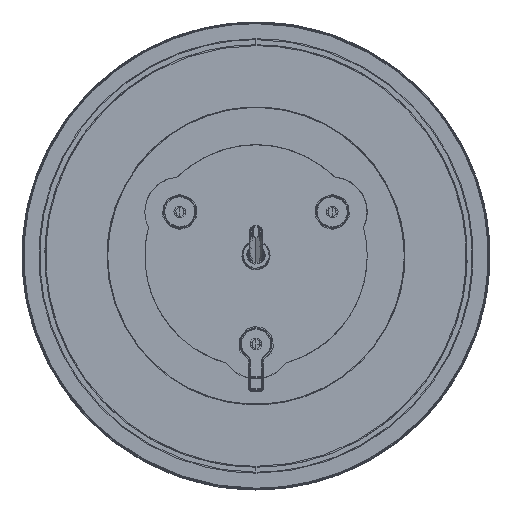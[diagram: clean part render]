
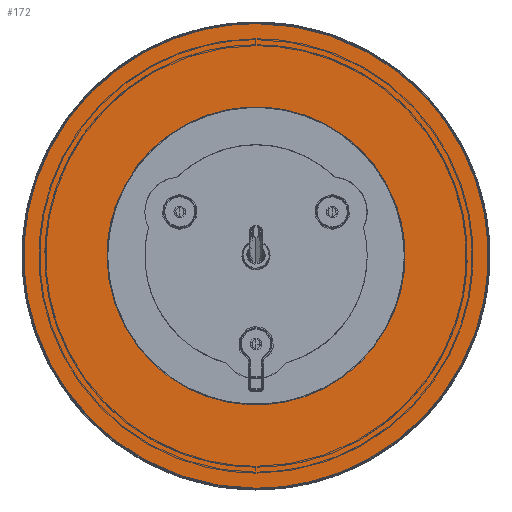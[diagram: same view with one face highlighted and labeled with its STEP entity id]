
A CAD part, top view. The second image highlights one B-rep face of the part: STEP entity #172.
In plain terms, the highlighted planar face has unit normal (0, 0, 1).
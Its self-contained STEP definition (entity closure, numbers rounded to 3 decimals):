
#43=FACE_BOUND('',#468,.T.);
#172=ADVANCED_FACE('',(#313,#43),#1912,.T.);
#313=FACE_OUTER_BOUND('',#467,.T.);
#467=EDGE_LOOP('',(#1031,#1032));
#468=EDGE_LOOP('',(#1033,#1034));
#1031=ORIENTED_EDGE('',*,*,#1375,.F.);
#1032=ORIENTED_EDGE('',*,*,#1358,.F.);
#1033=ORIENTED_EDGE('',*,*,#1354,.T.);
#1034=ORIENTED_EDGE('',*,*,#1377,.F.);
#1354=EDGE_CURVE('',#1863,#1862,#1674,.T.);
#1358=EDGE_CURVE('',#1866,#1867,#1676,.T.);
#1375=EDGE_CURVE('',#1867,#1866,#1686,.T.);
#1377=EDGE_CURVE('',#1863,#1862,#1688,.T.);
#1674=(
BOUNDED_CURVE()
B_SPLINE_CURVE(2,(#7150,#7151,#7152,#7153,#7154),.UNSPECIFIED.,.F.,.F.)
B_SPLINE_CURVE_WITH_KNOTS((3,2,3),(-101.002,-50.501,
0.),.UNSPECIFIED.)
CURVE()
GEOMETRIC_REPRESENTATION_ITEM()
RATIONAL_B_SPLINE_CURVE((1.,0.707,1.,0.707,1.))
REPRESENTATION_ITEM('')
);
#1676=(
BOUNDED_CURVE()
B_SPLINE_CURVE(2,(#7164,#7165,#7166,#7167,#7168),.UNSPECIFIED.,.F.,.F.)
B_SPLINE_CURVE_WITH_KNOTS((3,2,3),(0.,78.854,157.708),
 .UNSPECIFIED.)
CURVE()
GEOMETRIC_REPRESENTATION_ITEM()
RATIONAL_B_SPLINE_CURVE((1.,0.707,1.,0.707,1.))
REPRESENTATION_ITEM('')
);
#1686=(
BOUNDED_CURVE()
B_SPLINE_CURVE(2,(#7212,#7213,#7214,#7215,#7216),.UNSPECIFIED.,.F.,.F.)
B_SPLINE_CURVE_WITH_KNOTS((3,2,3),(0.,78.854,157.708),
 .UNSPECIFIED.)
CURVE()
GEOMETRIC_REPRESENTATION_ITEM()
RATIONAL_B_SPLINE_CURVE((1.,0.707,1.,0.707,1.))
REPRESENTATION_ITEM('')
);
#1688=(
BOUNDED_CURVE()
B_SPLINE_CURVE(2,(#7222,#7223,#7224,#7225,#7226),.UNSPECIFIED.,.F.,.F.)
B_SPLINE_CURVE_WITH_KNOTS((3,2,3),(0.,50.501,101.002),
 .UNSPECIFIED.)
CURVE()
GEOMETRIC_REPRESENTATION_ITEM()
RATIONAL_B_SPLINE_CURVE((1.,0.707,1.,0.707,1.))
REPRESENTATION_ITEM('')
);
#1862=VERTEX_POINT('',#7115);
#1863=VERTEX_POINT('',#7116);
#1866=VERTEX_POINT('',#7119);
#1867=VERTEX_POINT('',#7120);
#1912=PLANE('',#2073);
#2073=AXIS2_PLACEMENT_3D('',#7035,#2102,$);
#2102=DIRECTION('',(0.,0.,1.));
#7035=CARTESIAN_POINT('',(-60.24,62.783,13.));
#7115=CARTESIAN_POINT('',(32.15,2.543,13.));
#7116=CARTESIAN_POINT('',(-32.15,2.543,13.));
#7119=CARTESIAN_POINT('',(50.2,2.543,13.));
#7120=CARTESIAN_POINT('',(-50.2,2.543,13.));
#7150=CARTESIAN_POINT('',(-32.15,2.543,13.));
#7151=CARTESIAN_POINT('',(-32.15,34.693,13.));
#7152=CARTESIAN_POINT('',(0.,34.693,13.));
#7153=CARTESIAN_POINT('',(32.15,34.693,13.));
#7154=CARTESIAN_POINT('',(32.15,2.543,13.));
#7164=CARTESIAN_POINT('',(50.2,2.543,13.));
#7165=CARTESIAN_POINT('',(50.2,-47.657,13.));
#7166=CARTESIAN_POINT('',(0.,-47.657,13.));
#7167=CARTESIAN_POINT('',(-50.2,-47.657,13.));
#7168=CARTESIAN_POINT('',(-50.2,2.543,13.));
#7212=CARTESIAN_POINT('',(-50.2,2.543,13.));
#7213=CARTESIAN_POINT('',(-50.2,52.743,13.));
#7214=CARTESIAN_POINT('',(0.,52.743,13.));
#7215=CARTESIAN_POINT('',(50.2,52.743,13.));
#7216=CARTESIAN_POINT('',(50.2,2.543,13.));
#7222=CARTESIAN_POINT('',(-32.15,2.543,13.));
#7223=CARTESIAN_POINT('',(-32.15,-29.607,13.));
#7224=CARTESIAN_POINT('',(0.,-29.607,13.));
#7225=CARTESIAN_POINT('',(32.15,-29.607,13.));
#7226=CARTESIAN_POINT('',(32.15,2.543,13.));
